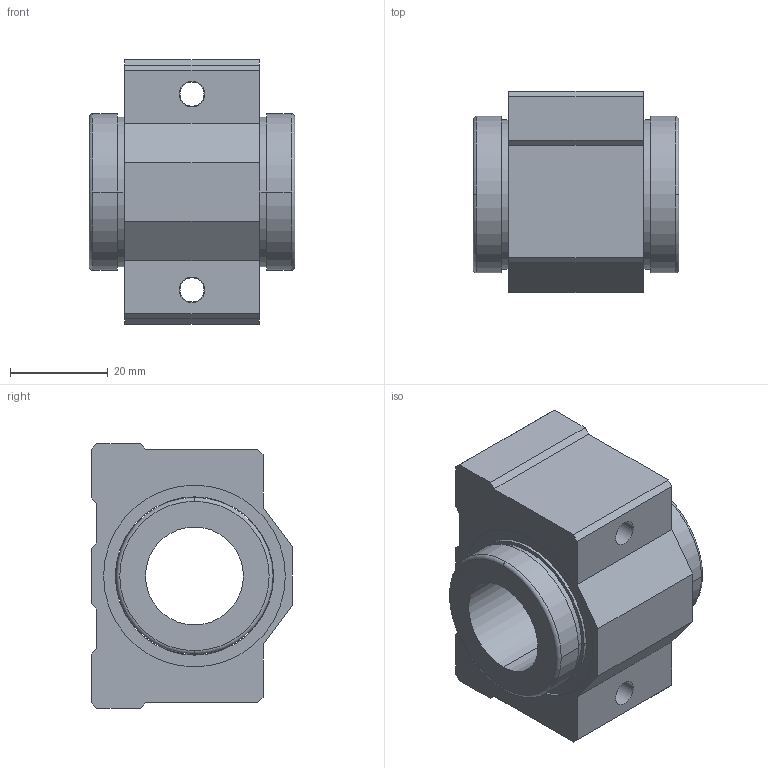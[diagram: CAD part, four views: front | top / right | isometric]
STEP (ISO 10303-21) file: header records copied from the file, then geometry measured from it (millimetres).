
FILE_DESCRIPTION(('FreeCAD Model'),'2;1');
FILE_NAME('Open CASCADE Shape Model','2021-05-03T09:05:54',('Author'),( ''),'Open CASCADE STEP processor 7.5','FreeCAD','Unknown');
FILE_SCHEMA(('AUTOMOTIVE_DESIGN { 1 0 10303 214 1 1 1 1 }'));
Length unit declared in the file: millimetre
Products named in the file (1): ball_bearing_sc20suu
Bounding box: 42 x 41 x 54 mm (x, y, z)
Volume: 49131.4 mm3; surface area: 19050.8 mm2
Topology: 2 solids, 2 shells, 70 faces, 516 edges, 1490 vertices
Faces by surface type: plane 36, cylinder 26, cone 4, torus 4
Entity records: 9443 total; most frequent: CARTESIAN_POINT 2619, DIRECTION 1179, LINE 596, VECTOR 596, GEOMETRIC_CURVE_SET 345, ORIENTED_EDGE 344, PCURVE 344, DEFINITIONAL_REPRESENTATION 344
